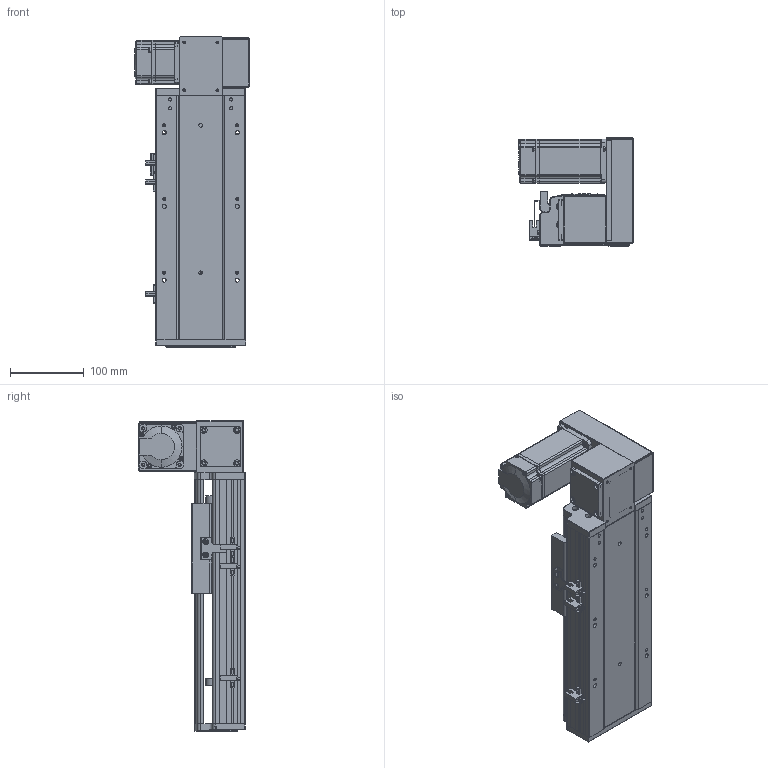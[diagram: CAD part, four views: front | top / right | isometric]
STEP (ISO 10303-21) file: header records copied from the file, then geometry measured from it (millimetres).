
FILE_DESCRIPTION (( 'STEP AP203' ), '1' );
FILE_NAME ('RY120-T-300-UR.SLDASM_100.step', '2021-03-01T05:55:17', ( '盈信电脑' ), ( '东莞市道滘镇水果街19号' ), 'SwSTEP 2.0', 'SolidWorks 2012', '' );
FILE_SCHEMA (( 'CONFIG_CONTROL_DESIGN' ));
Length unit declared in the file: millimetre
Products named in the file (17): RY120-T主同步轮轴承压盖; RY120-T萇儂欶; RY120-T-300-UR.SLDASM_100; 15; 滅袉蝶18-10; RY120-T蹟翐M4; RY120-T翋肮祭謫裔啣; RY120-T萇儂假蚾啣; RY120-T肮祭湍揤踡輸1; RY120-T肮祭湍揤踡輸2; RY120-T翋肮祭盓傅釱; RY120綴裔啣; RY120外置感应片(140共用）; 覜茼ん672; RY120肮祭湍臏賑輸; RY120-T-300-UR倰第菁釱_100; RY120-T-300-UR倰第奻裔啣_100
Assembly tree (22 placements, depth 2):
  RY120-T-300-UR.SLDASM_100
    RY120-T-300-UR倰第菁釱_100
    RY120-T-300-UR倰第奻裔啣_100
    RY120肮祭湍臏賑輸
    RY120綴裔啣
    覜茼ん672  x3
    RY120外置感应片(140共用）
    RY120-T肮祭湍揤踡輸1
    RY120-T肮祭湍揤踡輸2
    RY120-T翋肮祭盓傅釱
    RY120-T萇儂假蚾啣
    滅袉蝶18-10  x2
    RY120-T翋肮祭謫裔啣
    15
    RY120-T蹟翐M4  x4
    RY120-T萇儂欶
    RY120-T主同步轮轴承压盖
Bounding box: 155.5 x 146 x 421 mm (x, y, z)
Volume: 1648002.9 mm3; surface area: 569300.8 mm2
Topology: 23 solids, 23 shells, 2524 faces, 6832 edges, 4408 vertices
Faces by surface type: plane 1372, cylinder 882, cone 181, bspline 89
Entity records: 78745 total; most frequent: CARTESIAN_POINT 19094, ORIENTED_EDGE 12208, DIRECTION 11654, EDGE_CURVE 6104, VERTEX_POINT 3995, LINE 3992, VECTOR 3992, AXIS2_PLACEMENT_3D 3831
